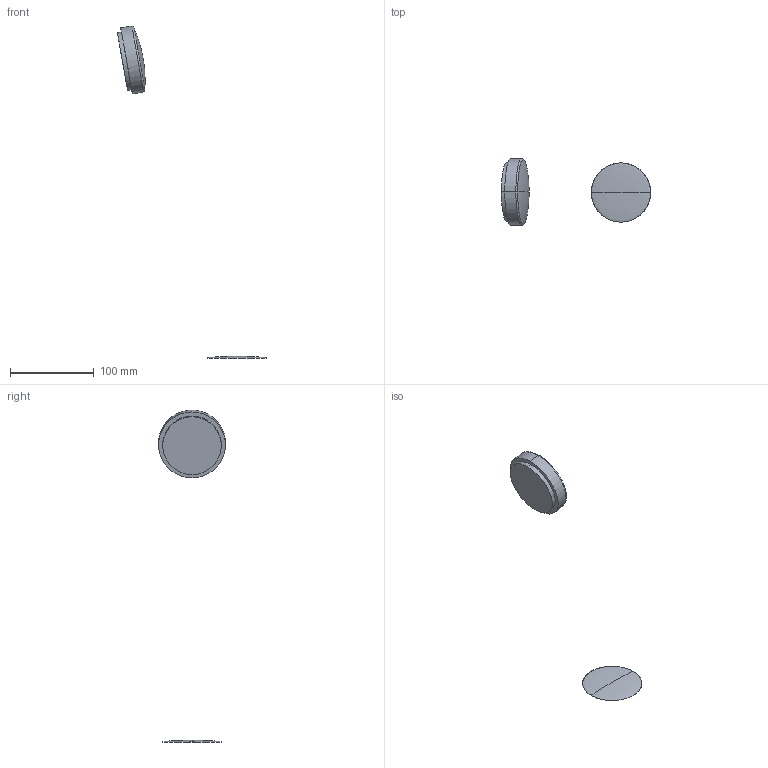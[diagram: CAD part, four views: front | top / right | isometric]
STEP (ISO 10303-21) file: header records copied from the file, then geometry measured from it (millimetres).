
FILE_DESCRIPTION(('STEP AP203'),'2;1');
FILE_NAME('COLSCA-K_BABY TWO.stp','2015-07-31T12:34:56',(''),(''),'2014.1.117','THINKDESIGN','');
FILE_SCHEMA(('CONFIG_CONTROL_DESIGN'));
Length unit declared in the file: millimetre
Bounding box: 178.32 x 80 x 396.82 mm (x, y, z)
Volume: 112260.4 mm3; surface area: 22809.2 mm2
Topology: 2 solids, 2 shells, 13 faces, 26 edges, 14 vertices
Faces by surface type: bspline 6, cylinder 4, plane 3
Entity records: 563 total; most frequent: CARTESIAN_POINT 233, DIRECTION 50, ORIENTED_EDGE 44, AXIS2_PLACEMENT_3D 23, EDGE_CURVE 22, CIRCLE 16, VERTEX_POINT 14, EDGE_LOOP 14
